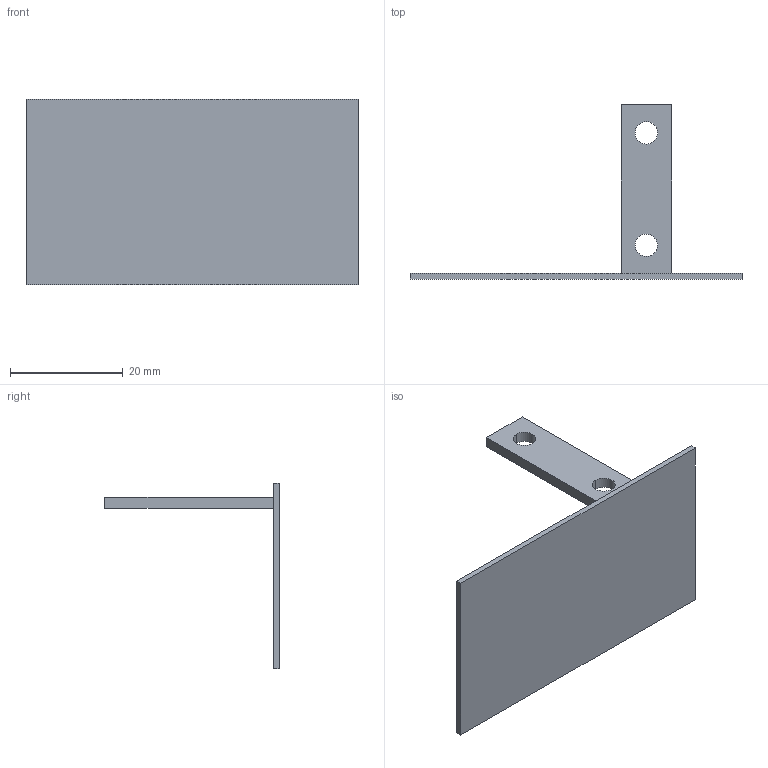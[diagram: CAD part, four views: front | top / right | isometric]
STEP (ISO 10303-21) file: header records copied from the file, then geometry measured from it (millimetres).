
FILE_DESCRIPTION(('STEP AP242'),'1');
FILE_NAME('OPO_65.082.47_volu_3d.stp','2026-01-30T20:54:15',(' '),(' '),'Spatial InterOp 3D',' ',' ');
FILE_SCHEMA(('AP242_MANAGED_MODEL_BASED_3D_ENGINEERING_MIM_LF {1 0 10303 442 1 1 4}'));
Length unit declared in the file: millimetre
Products named in the file (1): 1
Bounding box: 59 x 31 x 33 mm (x, y, z)
Volume: 2436.7 mm3; surface area: 4774 mm2
Topology: 2 solids, 2 shells, 58 faces, 148 edges, 98 vertices
Faces by surface type: plane 34, cylinder 24
Entity records: 2256 total; most frequent: DIRECTION 316, CARTESIAN_POINT 306, ORIENTED_EDGE 296, EDGE_CURVE 148, AXIS2_PLACEMENT_3D 108, LINE 100, VECTOR 100, VERTEX_POINT 98
